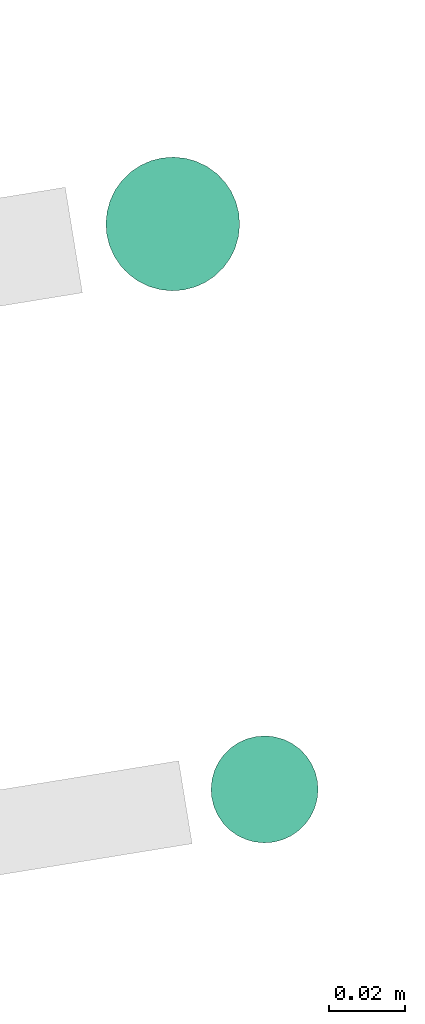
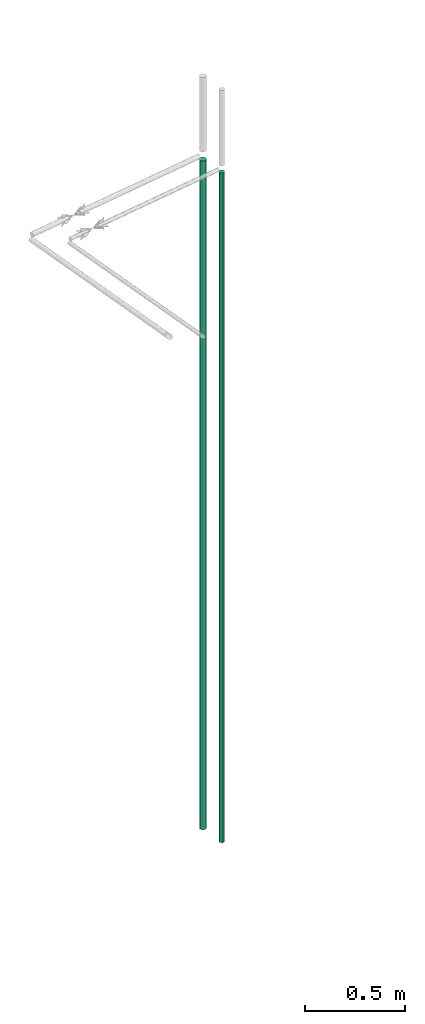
# One storey, part 8 of 10: 2 flow segments.
"""IFC2X3 building model written with IfcOpenShell, lengths in millimetres."""

import ifcopenshell
import ifcopenshell.guid

model = None  # the IFC model being written
_history = None  # IfcOwnerHistory: only IFC2X3 demands one
_inside = {}  # id of a spatial element -> (the spatial element, [elements in it])
_under = {}  # id of a project, library or spatial element -> (it, [spatial elements below it])
_declared = {}  # id of a project -> (the project, [libraries it declares])
_typed = {}  # id of a type object -> (the type object, [elements of that type])
_made_of = {}  # id of a material, layer set ... -> (it, [elements and type objects made of it])


def new_model(schema):
    """Start an empty IFC model of exactly this schema.

    Asked for "IFC4X3", IfcOpenShell would pick the latest addendum, in which some entities
    have other attributes; the version numbers below select the first issue.
    IFC2X3 requires an IfcOwnerHistory on every rooted entity: one is made here for all.
    """
    global model, _history
    if schema == "IFC4X3":
        model = ifcopenshell.file(schema_version=(4, 3, 0, 0))
    else:
        model = ifcopenshell.file(schema=schema)
    _inside.clear()
    _under.clear()
    _declared.clear()
    _typed.clear()
    _made_of.clear()
    _history = None
    if model.schema == "IFC2X3":
        org = make("IfcOrganization", Name="unknown")
        user = make(
            "IfcPersonAndOrganization",
            ThePerson=make("IfcPerson", FamilyName="unknown"),
            TheOrganization=org,
        )
        app = make(
            "IfcApplication",
            ApplicationDeveloper=org,
            Version="unknown",
            ApplicationFullName="unknown",
            ApplicationIdentifier="unknown",
        )
        _history = make(
            "IfcOwnerHistory",
            OwningUser=user,
            OwningApplication=app,
            ChangeAction="ADDED",
            CreationDate=0,
        )
    return model


def make(cls, **values):
    """One entity of the class cls with the attributes given. An attribute that is None is left unset."""
    return model.create_entity(
        cls, **{name: value for name, value in values.items() if value is not None}
    )


def entity(cls, *values):
    """Any entity or typed value of the class cls, its attributes in the order of the schema. None: left unset."""
    e = model.create_entity(cls)
    for i, value in enumerate(values):
        if value is not None:
            e[i] = value
    return e


def rooted(cls, **values):
    """An entity with a GlobalId (a new one), such as an element, a storey or a relation."""
    return make(cls, GlobalId=ifcopenshell.guid.new(), OwnerHistory=_history, **values)


def si_unit(unit_type, name, prefix=None):
    """IfcSIUnit, for example si_unit("LENGTHUNIT", "METRE", prefix="MILLI")."""
    return make("IfcSIUnit", UnitType=unit_type, Prefix=prefix, Name=name)


def converted_unit(unit_type, name, factor, base, dimensions=None, offset=None):
    """IfcConversionBasedUnit, such as the inch: factor (a typed value) times the base unit."""
    return make(
        "IfcConversionBasedUnit"
        if offset is None
        else "IfcConversionBasedUnitWithOffset",
        ConversionOffset=offset,
        Dimensions=None
        if dimensions is None
        else entity("IfcDimensionalExponents", *dimensions),
        UnitType=unit_type,
        Name=name,
        ConversionFactor=make(
            "IfcMeasureWithUnit", ValueComponent=factor, UnitComponent=base
        ),
    )


def derived_unit(unit_type, elements):
    """IfcDerivedUnit: a product of units, each with its exponent."""
    return make(
        "IfcDerivedUnit",
        Elements=[
            make("IfcDerivedUnitElement", Unit=unit, Exponent=power)
            for unit, power in elements
        ],
        UnitType=unit_type,
    )


def assignment(units):
    """IfcUnitAssignment: the units of a project."""
    return None if units is None else make("IfcUnitAssignment", Units=units)


def point(xyz):
    """IfcCartesianPoint."""
    return None if xyz is None else make("IfcCartesianPoint", Coordinates=xyz)


def direction(xyz):
    """IfcDirection."""
    return None if xyz is None else make("IfcDirection", DirectionRatios=xyz)


def frame(location, z_axis=None, x_axis=None):
    """IfcAxis2Placement3D, a coordinate frame: its origin and axes. An axis left out is left unset."""
    return make(
        "IfcAxis2Placement3D",
        Location=point(location),
        Axis=direction(z_axis),
        RefDirection=direction(x_axis),
    )


def origin():
    """The frame at (0, 0, 0) with its axes left unset."""
    return frame((0.0, 0.0, 0.0))


def origin_with_axes():
    """The frame at (0, 0, 0) with the z axis (0, 0, 1) and the x axis (1, 0, 0) written out."""
    return frame((0.0, 0.0, 0.0), z_axis=(0.0, 0.0, 1.0), x_axis=(1.0, 0.0, 0.0))


def place(relative_to, where):
    """IfcLocalPlacement: puts the frame where relative to a parent placement (None: the world)."""
    return make(
        "IfcLocalPlacement", PlacementRelTo=relative_to, RelativePlacement=where
    )


def context(
    kind, dimensions, precision=None, world=None, true_north=None, identifier=None
):
    """IfcGeometricRepresentationContext, for example the 3D "Model" context."""
    return make(
        "IfcGeometricRepresentationContext",
        ContextIdentifier=identifier,
        ContextType=kind,
        CoordinateSpaceDimension=dimensions,
        Precision=precision,
        WorldCoordinateSystem=world,
        TrueNorth=true_north,
    )


def subcontext(parent, identifier, kind, view, scale=None):
    """IfcGeometricRepresentationSubContext, for example "Body" below "Model"."""
    return make(
        "IfcGeometricRepresentationSubContext",
        ContextIdentifier=identifier,
        ContextType=kind,
        ParentContext=parent,
        TargetScale=scale,
        TargetView=view,
    )


def project(units=None, contexts=None):
    """IfcProject with its units and contexts."""
    return rooted(
        "IfcProject",
        Name="project",
        RepresentationContexts=contexts,
        UnitsInContext=assignment(units),
    )


def spatial(cls, under=None, at=None, **own):
    """A site, building, storey or space (cls), placed at a placement, below another one or the project."""
    s = rooted(cls, ObjectPlacement=at, **own)
    if under is not None:
        _under.setdefault(under.id(), (under, []))[1].append(s)
    return s


def faces_of(points, faces, orient=None, outer=None):
    """IfcFace entities. A face is a list of loops; a loop is a list of indices into points, from 0.

    orient and outer hold one flag for each loop. By default every Orientation is true, the
    first loop of a face is its IfcFaceOuterBound and the others are IfcFaceBound.
    """
    made = []
    for i, loops in enumerate(faces):
        bounds = []
        for j, loop in enumerate(loops):
            is_outer = j == 0 if outer is None else outer[i][j]
            bounds.append(
                make(
                    "IfcFaceOuterBound" if is_outer else "IfcFaceBound",
                    Bound=make("IfcPolyLoop", Polygon=[points[k] for k in loop]),
                    Orientation=True if orient is None else orient[i][j],
                )
            )
        made.append(make("IfcFace", Bounds=bounds))
    return made


def faceted_brep(points, faces, orient=None, outer=None, voids=None):
    """IfcFacetedBrep: a solid bounded by flat faces; with voids (closed shells), ...WithVoids."""
    shared = [point(p) for p in points]
    hull = make("IfcClosedShell", CfsFaces=faces_of(shared, faces, orient, outer))
    if voids is None:
        return make("IfcFacetedBrep", Outer=hull)
    return make(
        "IfcFacetedBrepWithVoids",
        Outer=hull,
        Voids=[
            make(cls, CfsFaces=faces_of(shared, fs, o, b)) for cls, fs, o, b in voids
        ],
    )


def shape(context_of_items, identifier, shape_type, items):
    """IfcShapeRepresentation: the items that make up one representation, for example the "Body"."""
    return make(
        "IfcShapeRepresentation",
        ContextOfItems=context_of_items,
        RepresentationIdentifier=identifier,
        RepresentationType=shape_type,
        Items=items,
    )


def made_of(thing, what):
    """Note that an element or type object is made of a material, layer set ...; save() writes the relation."""
    if what is not None:
        _made_of.setdefault(what.id(), (what, []))[1].append(thing)
    return thing


def type_object(cls, material=None, **own):
    """A type object (cls), such as IfcWallType, which elements share."""
    return made_of(rooted(cls, **own), material)


def element(
    cls,
    number,
    at=None,
    inside=None,
    cuts=None,
    type_object=None,
    material=None,
    context=None,
    identifier="Body",
    shape_type=None,
    held_by="IfcProductDefinitionShape",
    body=None,
    shapes=None,
    **own,
):
    """One element of the class cls, such as IfcWall. Its Tag is "e" and its number.

    at: its placement. inside: the storey or other place that contains it. cuts: it is an
    opening in that element (IfcRelVoidsElement). A single representation is given by context,
    identifier, shape_type and body (its items); several are given by shapes. held_by: the class
    of the entity that holds the representations. save() writes the other relations.
    """
    e = rooted(cls, Tag="e%d" % number, ObjectPlacement=at, **own)
    if body is not None:
        shapes = [shape(context, identifier, shape_type, body)]
    if shapes is not None:
        e.Representation = make(held_by, Representations=shapes)
    if inside is not None:
        _inside.setdefault(inside.id(), (inside, []))[1].append(e)
    if cuts is not None:
        rooted(
            "IfcRelVoidsElement", RelatingBuildingElement=cuts, RelatedOpeningElement=e
        )
    if type_object is not None:
        _typed.setdefault(type_object.id(), (type_object, []))[1].append(e)
    return made_of(e, material)


def aggregate(whole, parts):
    """IfcRelAggregates: a whole, such as a stair, and the parts it consists of."""
    return rooted("IfcRelAggregates", RelatingObject=whole, RelatedObjects=parts)


def save(model, path):
    """Write the relations noted so far, then the file.

    IfcRelAggregates (storeys below a building ...), IfcRelContainedInSpatialStructure (elements
    in a storey), IfcRelDefinesByType, IfcRelAssociatesMaterial and IfcRelDeclares: one each for
    every whole, place, type object, material and project.
    """
    for whole, parts in _under.values():
        aggregate(whole, parts)
    for where, things in _inside.values():
        rooted(
            "IfcRelContainedInSpatialStructure",
            RelatedElements=things,
            RelatingStructure=where,
        )
    for kind, things in _typed.values():
        rooted("IfcRelDefinesByType", RelatedObjects=things, RelatingType=kind)
    for what, things in _made_of.values():
        rooted("IfcRelAssociatesMaterial", RelatedObjects=things, RelatingMaterial=what)
    for by, libraries in _declared.values():
        rooted("IfcRelDeclares", RelatingContext=by, RelatedDefinitions=libraries)
    model.write(path)


model = new_model("IFC2X3")

# Units and contexts
model_context = context("Model", 3, precision=0.01, world=origin(), true_north=direction((6.12323399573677e-17, 1.0)))
plan_context = context("Plan", 3, precision=1e-05, world=origin_with_axes())
body_context = subcontext(model_context, "Body", "Model", "MODEL_VIEW")
ifc_project = project(units=[converted_unit("PLANEANGLEUNIT", "DEGREE", entity("IfcPositiveLengthMeasure", 0.0174532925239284), si_unit("PLANEANGLEUNIT", "RADIAN"), dimensions=[0, 0, 0, 0, 0, 0, 0]), si_unit("AREAUNIT", "SQUARE_METRE"), si_unit("LENGTHUNIT", "METRE", prefix="MILLI"), si_unit("MASSUNIT", "GRAM", prefix="KILO"), si_unit("POWERUNIT", "WATT"), si_unit("PRESSUREUNIT", "PASCAL", prefix="KILO"), si_unit("FORCEUNIT", "NEWTON", prefix="KILO"), si_unit("ELECTRICVOLTAGEUNIT", "VOLT"), si_unit("ELECTRICCURRENTUNIT", "AMPERE"), si_unit("THERMODYNAMICTEMPERATUREUNIT", "DEGREE_CELSIUS"), si_unit("TIMEUNIT", "SECOND"), si_unit("VOLUMEUNIT", "CUBIC_METRE"), derived_unit("LINEARVELOCITYUNIT", [(si_unit("LENGTHUNIT", "METRE"), 1), (si_unit("TIMEUNIT", "SECOND"), -1)]), derived_unit("VOLUMETRICFLOWRATEUNIT", [(si_unit("VOLUMEUNIT", "CUBIC_METRE"), 1), (si_unit("TIMEUNIT", "SECOND"), -1)]), derived_unit("THERMALTRANSMITTANCEUNIT", [(si_unit("POWERUNIT", "WATT"), 1), (si_unit("THERMODYNAMICTEMPERATUREUNIT", "KELVIN"), -1), (si_unit("AREAUNIT", "SQUARE_METRE"), -1)]), derived_unit("SOUNDPRESSUREUNIT", [(si_unit("PRESSUREUNIT", "PASCAL"), 1)])], contexts=[model_context, plan_context])

# Site, building, storey
site_placement = place(None, frame((-0.000710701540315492, 0.00438415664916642, 0.0), z_axis=(0.0, 0.0, 1.0), x_axis=(-0.160236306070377, 0.987078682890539, 0.0)))
site = spatial("IfcSite", under=ifc_project, at=site_placement, Name="Default", CompositionType="ELEMENT")
building_placement = place(site_placement, origin_with_axes())
building = spatial("IfcBuilding", under=site, at=building_placement, CompositionType="ELEMENT")
storey_placement = place(building_placement, frame((0.0, 0.0, 50999.9999999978), z_axis=(0.0, 0.0, 1.0), x_axis=(1.0, 0.0, 0.0)))
storey = spatial("IfcBuildingStorey", under=building, at=storey_placement, Name="Nivå D", CompositionType="ELEMENT", Elevation=50999.9999999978)

# Flow segments
pipe_segment_type = type_object("IfcPipeSegmentType", Name="Pipe Types:Kobberrør", PredefinedType="NOTDEFINED")
flow_segment_1_placement = place(storey_placement, origin_with_axes())
element("IfcFlowSegment", 1, at=flow_segment_1_placement, inside=storey, type_object=pipe_segment_type, Name="Pipe Types:Kobberrør", ObjectType="Pipe Types:Kobberrør", context=body_context, shape_type="Brep", body=[
    faceted_brep([(776978.383502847, -594676.067617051, -1000.0), (776978.596194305, -594673.636542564, -1000.0), (776978.596194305, -594673.636542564, 3078.0), (776978.383502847, -594676.067617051, 3078.0), (776978.596194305, -594678.498691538, -1000.0), (776978.596194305, -594678.498691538, 3078.0), (776979.227806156, -594680.855899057, -1000.0), (776979.227806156, -594680.855899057, 3078.0), (776980.259147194, -594683.067617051, -1000.0), (776980.259147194, -594683.067617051, 3078.0), (776981.658880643, -594685.066643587, -1000.0), (776981.658880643, -594685.066643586, 3078.0), (776983.384476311, -594686.792239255, -1000.0), (776983.384476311, -594686.792239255, 3078.0), (776985.383502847, -594688.191972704, -1000.0), (776985.383502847, -594688.191972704, 3078.0), (776987.59522084, -594689.223313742, -1000.0), (776987.59522084, -594689.223313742, 3078.0), (776989.95242836, -594689.854925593, -1000.0), (776989.95242836, -594689.854925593, 3078.0), (776992.383502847, -594690.067617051, -1000.0), (776992.383502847, -594690.067617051, 3078.0), (776994.814577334, -594689.854925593, -1000.0), (776994.814577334, -594689.854925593, 3078.0), (776997.171784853, -594689.223313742, -1000.0), (776997.171784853, -594689.223313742, 3078.0), (776999.383502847, -594688.191972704, -1000.0), (776999.383502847, -594688.191972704, 3078.0), (777001.382529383, -594686.792239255, -1000.0), (777001.382529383, -594686.792239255, 3078.0), (777003.108125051, -594685.066643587, -1000.0), (777003.108125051, -594685.066643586, 3078.0), (777004.5078585, -594683.067617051, -1000.0), (777004.5078585, -594683.067617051, 3078.0), (777005.539199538, -594680.855899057, -1000.0), (777005.539199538, -594680.855899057, 3078.0), (777006.170811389, -594678.498691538, -1000.0), (777006.170811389, -594678.498691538, 3078.0), (777006.383502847, -594676.067617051, -1000.0), (777006.383502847, -594676.067617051, 3078.0), (777006.170811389, -594673.636542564, -1000.0), (777006.170811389, -594673.636542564, 3078.0), (777005.539199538, -594671.279335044, -1000.0), (777005.539199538, -594671.279335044, 3078.0), (777004.5078585, -594669.067617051, -1000.0), (777004.5078585, -594669.067617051, 3078.0), (777003.108125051, -594667.068590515, -1000.0), (777003.108125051, -594667.068590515, 3078.0), (777001.382529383, -594665.342994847, -1000.0), (777001.382529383, -594665.342994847, 3078.0), (776999.383502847, -594663.943261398, -1000.0), (776999.383502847, -594663.943261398, 3078.0), (776997.171784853, -594662.91192036, -1000.0), (776997.171784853, -594662.91192036, 3078.0), (776994.814577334, -594662.280308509, -1000.0), (776994.814577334, -594662.280308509, 3078.0), (776992.383502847, -594662.067617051, -1000.0), (776992.383502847, -594662.067617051, 3078.0), (776989.95242836, -594662.280308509, -1000.0), (776989.95242836, -594662.280308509, 3078.0), (776987.59522084, -594662.91192036, -1000.0), (776987.59522084, -594662.91192036, 3078.0), (776985.383502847, -594663.943261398, -1000.0), (776985.383502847, -594663.943261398, 3078.0), (776983.384476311, -594665.342994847, -1000.0), (776983.384476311, -594665.342994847, 3078.0), (776981.658880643, -594667.068590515, -1000.0), (776981.658880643, -594667.068590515, 3078.0), (776980.259147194, -594669.067617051, -1000.0), (776980.259147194, -594669.067617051, 3078.0), (776979.227806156, -594671.279335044, -1000.0), (776979.227806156, -594671.279335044, 3078.0)], [[[0, 1, 2, 3]], [[4, 0, 3, 5]], [[6, 4, 5, 7]], [[8, 6, 7, 9]], [[10, 8, 9, 11]], [[12, 10, 11, 13]], [[14, 12, 13, 15]], [[16, 14, 15, 17]], [[18, 16, 17, 19]], [[20, 18, 19, 21]], [[22, 20, 21, 23]], [[24, 22, 23, 25]], [[26, 24, 25, 27]], [[28, 26, 27, 29]], [[30, 28, 29, 31]], [[32, 30, 31, 33]], [[34, 32, 33, 35]], [[36, 34, 35, 37]], [[38, 36, 37, 39]], [[40, 38, 39, 41]], [[42, 40, 41, 43]], [[44, 42, 43, 45]], [[46, 44, 45, 47]], [[48, 46, 47, 49]], [[50, 48, 49, 51]], [[52, 50, 51, 53]], [[54, 52, 53, 55]], [[56, 54, 55, 57]], [[58, 56, 57, 59]], [[60, 58, 59, 61]], [[62, 60, 61, 63]], [[64, 62, 63, 65]], [[66, 64, 65, 67]], [[68, 66, 67, 69]], [[70, 68, 69, 71]], [[1, 70, 71, 2]], [[3, 2, 71, 69, 67, 65, 63, 61, 59, 57, 55, 53, 51, 49, 47, 45, 43, 41, 39, 37, 35, 33, 31, 29, 27, 25, 23, 21, 19, 17, 15, 13, 11, 9, 7, 5]], [[4, 6, 8, 10, 12, 14, 16, 18, 20, 22, 24, 26, 28, 30, 32, 34, 36, 38, 40, 42, 44, 46, 48, 50, 52, 54, 56, 58, 60, 62, 64, 66, 68, 70, 1, 0]]], orient=[[False], [False], [False], [False], [False], [False], [False], [False], [False], [False], [False], [False], [False], [False], [False], [False], [False], [False], [False], [False], [False], [False], [False], [False], [False], [False], [False], [False], [False], [False], [False], [False], [False], [False], [False], [False], [False], [False]]),
])
flow_segment_2_placement = place(storey_placement, origin_with_axes())
element("IfcFlowSegment", 2, at=flow_segment_2_placement, inside=storey, type_object=pipe_segment_type, Name="Pipe Types:Kobberrør", ObjectType="Pipe Types:Kobberrør", context=body_context, shape_type="Brep", body=[
    faceted_brep([(777124.872679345, -594676.067617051, -1000.0), (777125.138543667, -594673.028773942, -1000.0), (777125.138543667, -594673.028773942, 3071.99999999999), (777124.872679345, -594676.067617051, 3071.99999999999), (777125.138543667, -594679.10646016, -1000.0), (777125.138543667, -594679.10646016, 3071.99999999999), (777125.928058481, -594682.052969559, -1000.0), (777125.928058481, -594682.052969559, 3071.99999999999), (777127.217234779, -594684.817617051, -1000.0), (777127.217234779, -594684.817617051, 3071.99999999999), (777128.96690159, -594687.31640022, -1000.0), (777128.96690159, -594687.31640022, 3071.99999999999), (777131.123896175, -594689.473394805, -1000.0), (777131.123896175, -594689.473394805, 3071.99999999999), (777133.622679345, -594691.223061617, -1000.0), (777133.622679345, -594691.223061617, 3071.99999999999), (777136.387326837, -594692.512237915, -1000.0), (777136.387326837, -594692.512237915, 3071.99999999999), (777139.333836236, -594693.301752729, -1000.0), (777139.333836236, -594693.301752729, 3071.99999999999), (777142.372679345, -594693.567617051, -1000.0), (777142.372679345, -594693.567617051, 3071.99999999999), (777145.411522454, -594693.301752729, -1000.0), (777145.411522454, -594693.301752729, 3071.99999999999), (777148.358031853, -594692.512237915, -1000.0), (777148.358031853, -594692.512237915, 3071.99999999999), (777151.122679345, -594691.223061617, -1000.0), (777151.122679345, -594691.223061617, 3071.99999999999), (777153.621462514, -594689.473394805, -1000.0), (777153.621462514, -594689.473394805, 3071.99999999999), (777155.778457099, -594687.31640022, -1000.0), (777155.778457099, -594687.31640022, 3071.99999999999), (777157.528123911, -594684.817617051, -1000.0), (777157.528123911, -594684.817617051, 3071.99999999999), (777158.817300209, -594682.052969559, -1000.0), (777158.817300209, -594682.052969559, 3071.99999999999), (777159.606815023, -594679.10646016, -1000.0), (777159.606815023, -594679.10646016, 3071.99999999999), (777159.872679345, -594676.067617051, -1000.0), (777159.872679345, -594676.067617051, 3071.99999999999), (777159.606815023, -594673.028773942, -1000.0), (777159.606815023, -594673.028773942, 3071.99999999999), (777158.817300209, -594670.082264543, -1000.0), (777158.817300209, -594670.082264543, 3071.99999999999), (777157.528123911, -594667.317617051, -1000.0), (777157.528123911, -594667.317617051, 3071.99999999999), (777155.778457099, -594664.818833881, -1000.0), (777155.778457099, -594664.818833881, 3071.99999999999), (777153.621462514, -594662.661839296, -1000.0), (777153.621462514, -594662.661839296, 3071.99999999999), (777151.122679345, -594660.912172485, -1000.0), (777151.122679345, -594660.912172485, 3071.99999999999), (777148.358031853, -594659.622996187, -1000.0), (777148.358031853, -594659.622996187, 3071.99999999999), (777145.411522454, -594658.833481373, -1000.0), (777145.411522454, -594658.833481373, 3071.99999999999), (777142.372679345, -594658.567617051, -1000.0), (777142.372679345, -594658.567617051, 3071.99999999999), (777139.333836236, -594658.833481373, -1000.0), (777139.333836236, -594658.833481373, 3071.99999999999), (777136.387326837, -594659.622996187, -1000.0), (777136.387326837, -594659.622996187, 3071.99999999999), (777133.622679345, -594660.912172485, -1000.0), (777133.622679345, -594660.912172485, 3071.99999999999), (777131.123896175, -594662.661839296, -1000.0), (777131.123896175, -594662.661839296, 3071.99999999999), (777128.96690159, -594664.818833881, -1000.0), (777128.96690159, -594664.818833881, 3071.99999999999), (777127.217234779, -594667.317617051, -1000.0), (777127.217234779, -594667.317617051, 3071.99999999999), (777125.928058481, -594670.082264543, -1000.0), (777125.928058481, -594670.082264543, 3071.99999999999)], [[[0, 1, 2, 3]], [[4, 0, 3, 5]], [[6, 4, 5, 7]], [[8, 6, 7, 9]], [[10, 8, 9, 11]], [[12, 10, 11, 13]], [[14, 12, 13, 15]], [[16, 14, 15, 17]], [[18, 16, 17, 19]], [[20, 18, 19, 21]], [[22, 20, 21, 23]], [[24, 22, 23, 25]], [[26, 24, 25, 27]], [[28, 26, 27, 29]], [[30, 28, 29, 31]], [[32, 30, 31, 33]], [[34, 32, 33, 35]], [[36, 34, 35, 37]], [[38, 36, 37, 39]], [[40, 38, 39, 41]], [[42, 40, 41, 43]], [[44, 42, 43, 45]], [[46, 44, 45, 47]], [[48, 46, 47, 49]], [[50, 48, 49, 51]], [[52, 50, 51, 53]], [[54, 52, 53, 55]], [[56, 54, 55, 57]], [[58, 56, 57, 59]], [[60, 58, 59, 61]], [[62, 60, 61, 63]], [[64, 62, 63, 65]], [[66, 64, 65, 67]], [[68, 66, 67, 69]], [[70, 68, 69, 71]], [[1, 70, 71, 2]], [[3, 2, 71, 69, 67, 65, 63, 61, 59, 57, 55, 53, 51, 49, 47, 45, 43, 41, 39, 37, 35, 33, 31, 29, 27, 25, 23, 21, 19, 17, 15, 13, 11, 9, 7, 5]], [[4, 6, 8, 10, 12, 14, 16, 18, 20, 22, 24, 26, 28, 30, 32, 34, 36, 38, 40, 42, 44, 46, 48, 50, 52, 54, 56, 58, 60, 62, 64, 66, 68, 70, 1, 0]]], orient=[[False], [False], [False], [False], [False], [False], [False], [False], [False], [False], [False], [False], [False], [False], [False], [False], [False], [False], [False], [False], [False], [False], [False], [False], [False], [False], [False], [False], [False], [False], [False], [False], [False], [False], [False], [False], [False], [False]]),
])

save(model, "model.ifc")
